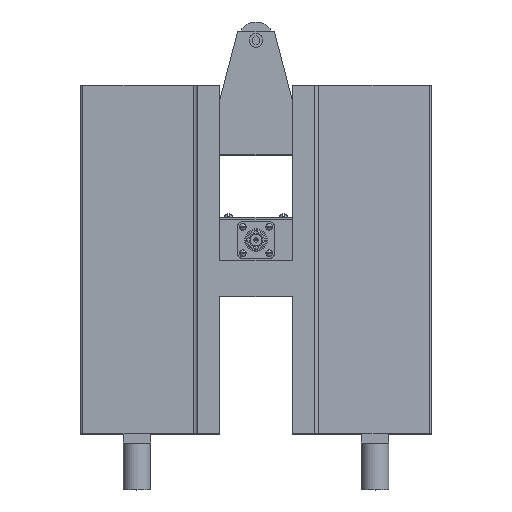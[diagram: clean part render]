
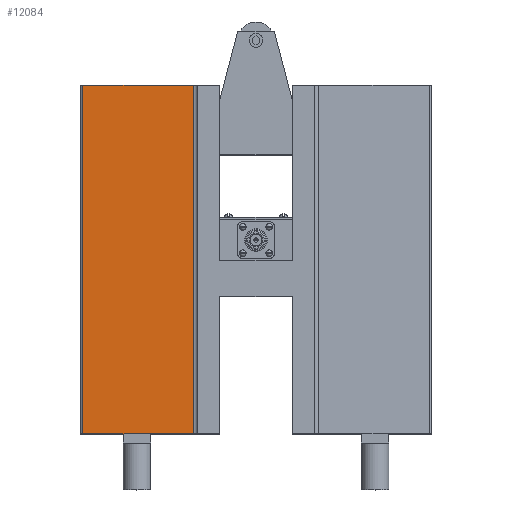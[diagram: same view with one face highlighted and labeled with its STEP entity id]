
A CAD part, top view. The second image highlights one B-rep face of the part: STEP entity #12084.
In plain terms, the highlighted planar face has unit normal (-0.026, 0, 1).
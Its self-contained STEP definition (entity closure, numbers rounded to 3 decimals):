
#1413=ORIENTED_EDGE('',*,*,#3684,.F.);
#1414=ORIENTED_EDGE('',*,*,#3683,.F.);
#1415=ORIENTED_EDGE('',*,*,#3685,.T.);
#1416=ORIENTED_EDGE('',*,*,#3686,.T.);
#3683=EDGE_CURVE('',#4857,#4856,#5536,.T.);
#3684=EDGE_CURVE('',#4856,#4858,#5537,.T.);
#3685=EDGE_CURVE('',#4857,#4859,#5538,.T.);
#3686=EDGE_CURVE('',#4859,#4858,#5539,.T.);
#4856=VERTEX_POINT('',#17182);
#4857=VERTEX_POINT('',#17184);
#4858=VERTEX_POINT('',#17188);
#4859=VERTEX_POINT('',#17190);
#5536=LINE('',#17185,#6420);
#5537=LINE('',#17187,#6421);
#5538=LINE('',#17189,#6422);
#5539=LINE('',#17191,#6423);
#6420=VECTOR('',#14478,1000.);
#6421=VECTOR('',#14481,1000.);
#6422=VECTOR('',#14482,1000.);
#6423=VECTOR('',#14483,1000.);
#7201=EDGE_LOOP('',(#1413,#1414,#1415,#1416));
#7781=FACE_BOUND('',#7201,.T.);
#8244=PLANE('',#12842);
#12084=ADVANCED_FACE('',(#7781),#8244,.T.);
#12842=AXIS2_PLACEMENT_3D('',#17186,#14479,#14480);
#14478=DIRECTION('',(0.,1.,0.));
#14479=DIRECTION('',(-0.026,0.,1.));
#14480=DIRECTION('',(1.,0.,0.026));
#14481=DIRECTION('',(1.,0.,0.026));
#14482=DIRECTION('',(1.,0.,0.026));
#14483=DIRECTION('',(0.,1.,0.));
#17182=CARTESIAN_POINT('',(-119.981,107.188,127.33));
#17184=CARTESIAN_POINT('',(-119.981,-134.112,127.33));
#17185=CARTESIAN_POINT('',(-119.981,-134.112,127.33));
#17186=CARTESIAN_POINT('',(-119.981,-134.112,127.33));
#17187=CARTESIAN_POINT('',(-119.981,107.188,127.33));
#17188=CARTESIAN_POINT('',(-43.354,107.188,129.336));
#17189=CARTESIAN_POINT('',(-119.981,-134.112,127.33));
#17190=CARTESIAN_POINT('',(-43.354,-134.112,129.336));
#17191=CARTESIAN_POINT('',(-43.354,-134.112,129.336));
